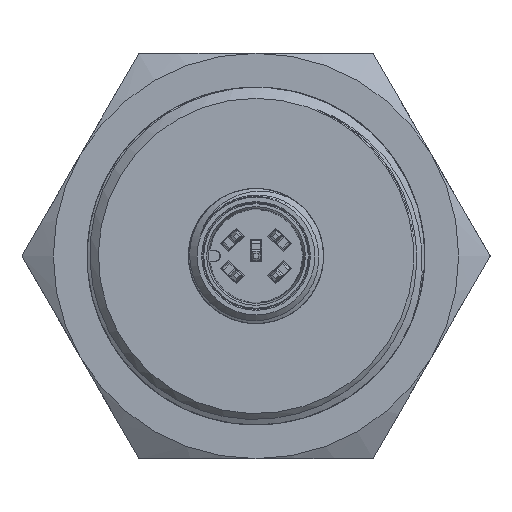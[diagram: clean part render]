
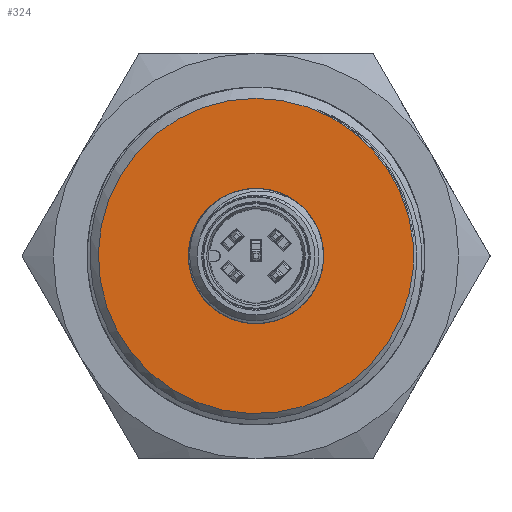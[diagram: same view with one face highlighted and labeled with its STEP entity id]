
A CAD part, left-side view. The second image highlights one B-rep face of the part: STEP entity #324.
In plain terms, the highlighted planar face has unit normal (-1, 0, 0).
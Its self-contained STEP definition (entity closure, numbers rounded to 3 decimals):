
#324 = ADVANCED_FACE( '', ( #775, #776 ), #777, .T. );
#775 = FACE_OUTER_BOUND( '', #1537, .T. );
#776 = FACE_BOUND( '', #1538, .T. );
#777 = PLANE( '', #1539 );
#1537 = EDGE_LOOP( '', ( #5020 ) );
#1538 = EDGE_LOOP( '', ( #5021 ) );
#1539 = AXIS2_PLACEMENT_3D( '', #5022, #5023, #5024 );
#5020 = ORIENTED_EDGE( '', *, *, #6564, .T. );
#5021 = ORIENTED_EDGE( '', *, *, #6565, .T. );
#5022 = CARTESIAN_POINT( '', ( -45., 0., 15. ) );
#5023 = DIRECTION( '', ( -1., 0., 0. ) );
#5024 = DIRECTION( '', ( 0., 0., 1. ) );
#6564 = EDGE_CURVE( '', #7318, #7318, #7319, .T. );
#6565 = EDGE_CURVE( '', #7320, #7320, #7321, .T. );
#7318 = VERTEX_POINT( '', #10905 );
#7319 = CIRCLE( '', #10906, 14. );
#7320 = VERTEX_POINT( '', #10907 );
#7321 = CIRCLE( '', #10908, 5.225 );
#10905 = CARTESIAN_POINT( '', ( -45., 0., 14. ) );
#10906 = AXIS2_PLACEMENT_3D( '', #13959, #13960, #13961 );
#10907 = CARTESIAN_POINT( '', ( -45., 0., -5.225 ) );
#10908 = AXIS2_PLACEMENT_3D( '', #13962, #13963, #13964 );
#13959 = CARTESIAN_POINT( '', ( -45., 0., 0. ) );
#13960 = DIRECTION( '', ( -1., 0., 0. ) );
#13961 = DIRECTION( '', ( 0., 0., 1. ) );
#13962 = CARTESIAN_POINT( '', ( -45., 0., 0. ) );
#13963 = DIRECTION( '', ( 1., 0., 0. ) );
#13964 = DIRECTION( '', ( 0., 0., -1. ) );
